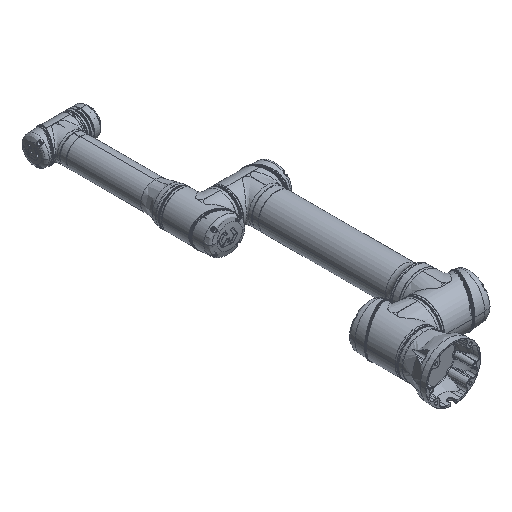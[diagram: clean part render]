
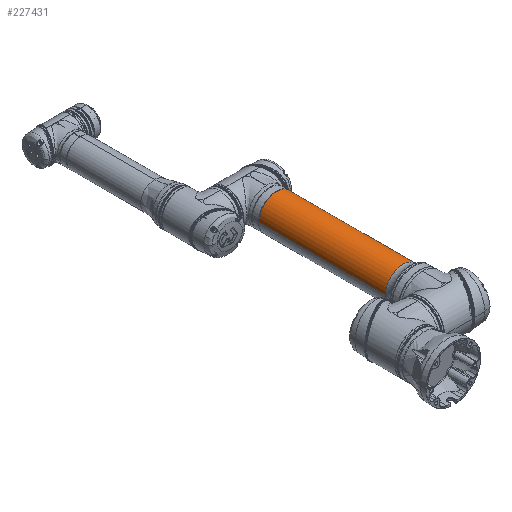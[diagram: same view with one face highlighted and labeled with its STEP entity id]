
A CAD part, isometric view. The second image highlights one B-rep face of the part: STEP entity #227431.
In plain terms, the highlighted cylindrical face has radius 48.5 mm (diameter 97 mm), a partial arc.
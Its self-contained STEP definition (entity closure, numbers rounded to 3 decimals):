
#2608 = VERTEX_POINT ( 'NONE', #375193 ) ;
#14505 = AXIS2_PLACEMENT_3D ( 'NONE', #274944, #287782, #140369 ) ;
#59409 = DIRECTION ( 'NONE',  ( -1., 0., 0. ) ) ;
#76239 = CARTESIAN_POINT ( 'NONE',  ( 116.698, 0., -141. ) ) ;
#95582 = DIRECTION ( 'NONE',  ( -1., 0., 0. ) ) ;
#109190 = DIRECTION ( 'NONE',  ( 0., 0., 1. ) ) ;
#126049 = DIRECTION ( 'NONE',  ( 1., 0., 0. ) ) ;
#137237 = EDGE_CURVE ( 'NONE', #414488, #2608, #219227, .T. ) ;
#140369 = DIRECTION ( 'NONE',  ( 0., 0., 1. ) ) ;
#175999 = AXIS2_PLACEMENT_3D ( 'NONE', #76239, #126049, #565724 ) ;
#184553 = CYLINDRICAL_SURFACE ( 'NONE', #14505, 48.5 ) ;
#187697 = CARTESIAN_POINT ( 'NONE',  ( 116.698, 0., -189.5 ) ) ;
#194315 = EDGE_CURVE ( 'NONE', #2608, #389929, #443528, .T. ) ;
#200245 = ORIENTED_EDGE ( 'NONE', *, *, #623693, .F. ) ;
#204479 = AXIS2_PLACEMENT_3D ( 'NONE', #407995, #59409, #109190 ) ;
#205377 = ORIENTED_EDGE ( 'NONE', *, *, #194315, .T. ) ;
#219227 = LINE ( 'NONE', #254547, #335433 ) ;
#221971 = VECTOR ( 'NONE', #95582, 1000. ) ;
#227431 = ADVANCED_FACE ( 'NONE', ( #378421 ), #184553, .T. ) ;
#239370 = CIRCLE ( 'NONE', #204479, 48.5 ) ;
#254547 = CARTESIAN_POINT ( 'NONE',  ( 62.9, 0., -92.5 ) ) ;
#266172 = EDGE_CURVE ( 'NONE', #321699, #414488, #239370, .T. ) ;
#274944 = CARTESIAN_POINT ( 'NONE',  ( 62.9, 0., -141. ) ) ;
#278522 = CARTESIAN_POINT ( 'NONE',  ( 463.7, 0., -189.5 ) ) ;
#287782 = DIRECTION ( 'NONE',  ( -1., 0., 0. ) ) ;
#302199 = DIRECTION ( 'NONE',  ( -1., 0., 0. ) ) ;
#321699 = VERTEX_POINT ( 'NONE', #278522 ) ;
#335433 = VECTOR ( 'NONE', #302199, 1000. ) ;
#342459 = CARTESIAN_POINT ( 'NONE',  ( 62.9, 0., -189.5 ) ) ;
#375193 = CARTESIAN_POINT ( 'NONE',  ( 116.698, 0., -92.5 ) ) ;
#378421 = FACE_OUTER_BOUND ( 'NONE', #614752, .T. ) ;
#389929 = VERTEX_POINT ( 'NONE', #187697 ) ;
#407428 = ORIENTED_EDGE ( 'NONE', *, *, #266172, .T. ) ;
#407995 = CARTESIAN_POINT ( 'NONE',  ( 463.7, 0., -141. ) ) ;
#414488 = VERTEX_POINT ( 'NONE', #501974 ) ;
#443528 = CIRCLE ( 'NONE', #175999, 48.5 ) ;
#485486 = LINE ( 'NONE', #342459, #221971 ) ;
#501974 = CARTESIAN_POINT ( 'NONE',  ( 463.7, 0., -92.5 ) ) ;
#565724 = DIRECTION ( 'NONE',  ( 0., 0., 1. ) ) ;
#614752 = EDGE_LOOP ( 'NONE', ( #200245, #407428, #637981, #205377 ) ) ;
#623693 = EDGE_CURVE ( 'NONE', #321699, #389929, #485486, .T. ) ;
#637981 = ORIENTED_EDGE ( 'NONE', *, *, #137237, .T. ) ;
